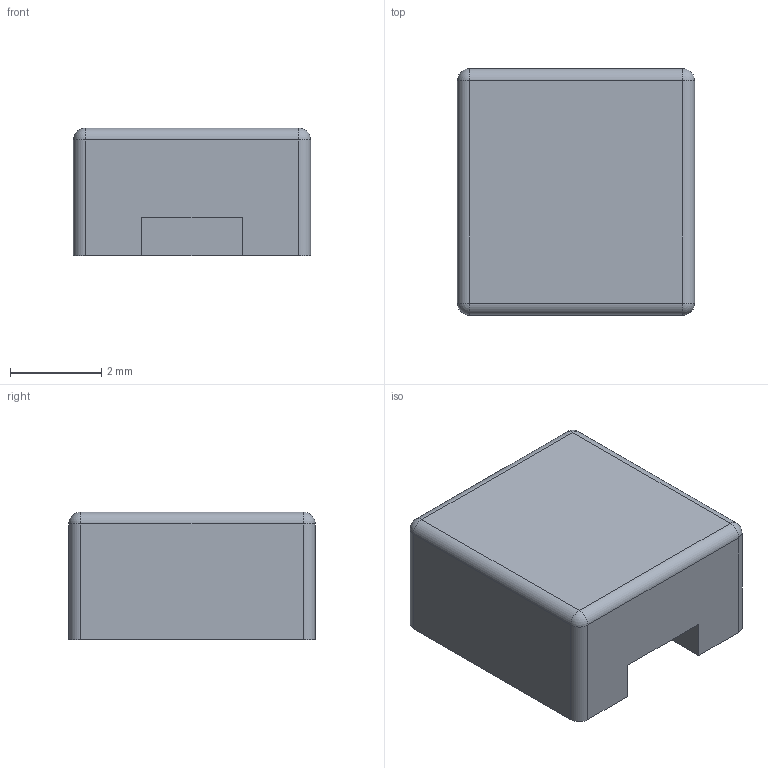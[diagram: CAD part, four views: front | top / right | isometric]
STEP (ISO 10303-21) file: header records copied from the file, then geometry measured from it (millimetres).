
FILE_DESCRIPTION(/* description */ ('STEP AP242 Edition 2','CAx-IF Rec.Pracs.---Representation and Presentation of Product Manufacturing Information (PMI)---4.0---2014-10-13','CAx-IF Rec.Pracs.---3D Tessellated Geometry---0.4---2014-09-14','2;1','CAx-IF Rec.Pracs.---User Defined Attributes---1.5---2016-08-15'),/* implementation_level */ '2;1');
FILE_NAME(/* name */ 'v2_assembly - v2 1.28.1',/* time_stamp */ '2026-05-19T16:26:08Z',/* author */ (''),/* organization */ (''),/* preprocessor_version */ 'ST-DEVELOPER v20',/* originating_system */ 'ONSHAPE BY PTC INC, 1.215',/* authorisation */ ' ');
FILE_SCHEMA (('AP242_MANAGED_MODEL_BASED_3D_ENGINEERING_MIM_LF { 1 0 10303 442 3 1 4 }'));
Length unit declared in the file: metre
Products named in the file (1): v2 1.28.1
Bounding box: 5.2 x 5.4 x 2.8 mm (x, y, z)
Volume: 73.7 mm3; surface area: 115.9 mm2
Topology: 1 solids, 1 shells, 26 faces, 64 edges, 36 vertices
Faces by surface type: plane 14, cylinder 8, sphere 4
Entity records: 746 total; most frequent: DIRECTION 130, CARTESIAN_POINT 123, ORIENTED_EDGE 120, EDGE_CURVE 60, LINE 44, VECTOR 44, AXIS2_PLACEMENT_3D 43, VERTEX_POINT 36
